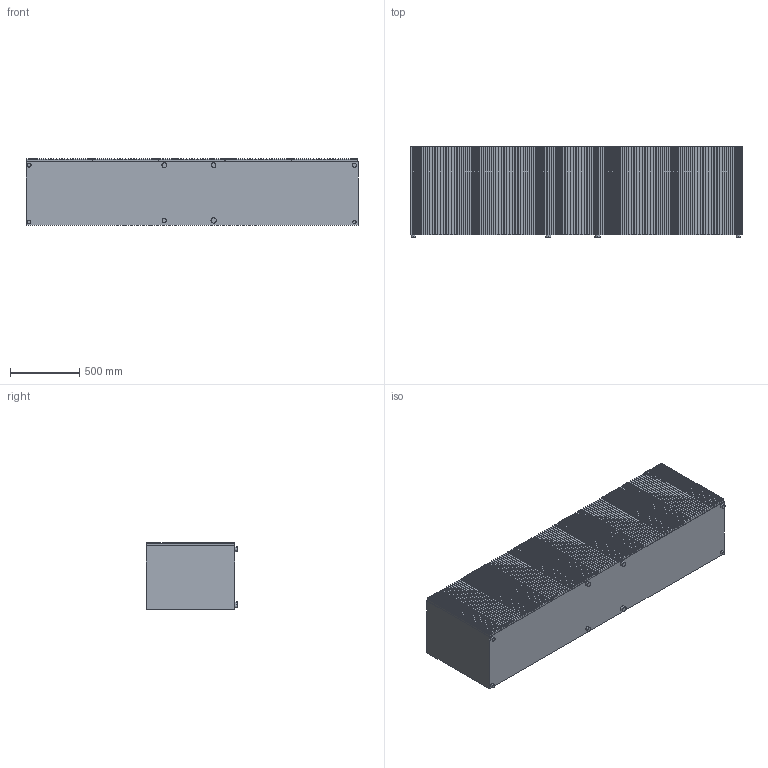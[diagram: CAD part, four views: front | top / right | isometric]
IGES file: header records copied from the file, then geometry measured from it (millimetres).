
Start section: SolidWorks IGES file using analytic representation for surfaces
Global section: file name: C:\Users\Matteo\Desktop\_Horm\_carlos\_collezione carlos\_IGS CARLOS\CARLOS cm 240X49X66H.IGS; native system: SolidWorks 2010; preprocessor: SolidWorks 2010; author: Matteo; date: 160224.162042; units: millimetre
Bounding box: 2400 x 660 x 484 mm (x, y, z)
Surface area: 12499951.5 mm2 (no closed solid volume)
Topology: 0 solids, 0 shells, 1920 faces, 14552 edges, 14552 vertices
Faces by surface type: bspline 1594, revolution 326
